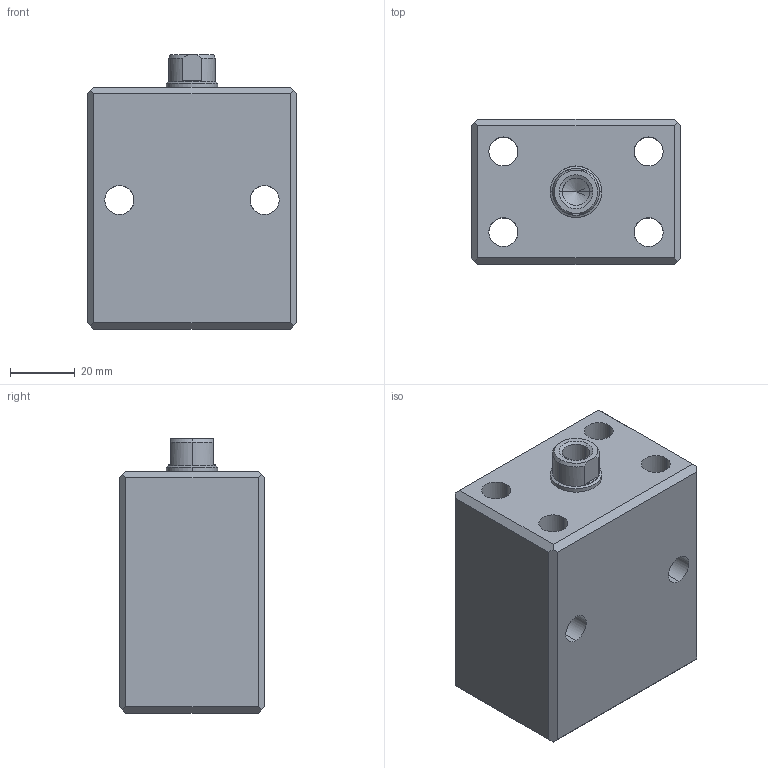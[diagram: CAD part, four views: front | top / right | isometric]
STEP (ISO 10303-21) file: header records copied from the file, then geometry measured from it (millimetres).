
FILE_DESCRIPTION (( 'STEP AP214' ), '1' );
FILE_NAME ('BC04-25-25F.STEP', '2024-03-22T03:54:44', ( '' ), ( '' ), 'SwSTEP 2.0', 'SolidWorks 2019', '' );
FILE_SCHEMA (( 'AUTOMOTIVE_DESIGN' ));
Length unit declared in the file: millimetre
Products named in the file (3): 25-25 BODY; 25-258-BLC PISTON; BC04-25-25F
Assembly tree (2 placements, depth 2):
  BC04-25-25F
    25-25 BODY
    25-258-BLC PISTON
Bounding box: 65 x 45 x 85 mm (x, y, z)
Volume: 192394.6 mm3; surface area: 38454.6 mm2
Topology: 2 solids, 2 shells, 86 faces, 222 edges, 132 vertices
Faces by surface type: cylinder 44, plane 27, cone 15
Entity records: 2771 total; most frequent: CARTESIAN_POINT 559, ORIENTED_EDGE 432, DIRECTION 429, EDGE_CURVE 216, AXIS2_PLACEMENT_3D 158, VERTEX_POINT 132, VECTOR 113, LINE 113
